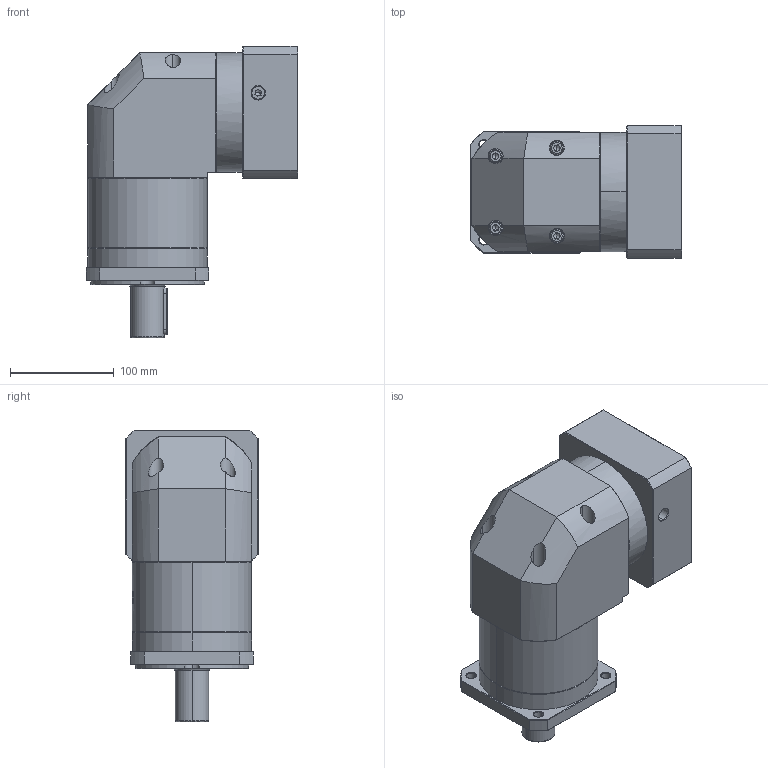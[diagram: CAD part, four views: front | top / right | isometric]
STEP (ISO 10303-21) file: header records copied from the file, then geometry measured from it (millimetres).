
FILE_DESCRIPTION (( 'STEP AP214' ), '1' );
FILE_NAME ('ZFR120A-D32-L2-P2-28-110-145-M8.step', '2023-08-27T08:10:20', ( '' ), ( '' ), 'SwSTEP 2.0', 'SolidWorks 2016', '' );
FILE_SCHEMA (( 'AUTOMOTIVE_DESIGN' ));
Length unit declared in the file: millimetre
Products named in the file (1): ZFR120A-D32-L2-P2-28-110-145-M8
Bounding box: 203.9 x 128 x 281.5 mm (x, y, z)
Volume: 3395553.6 mm3; surface area: 269697.6 mm2
Topology: 6 solids, 6 shells, 2267 faces, 5977 edges, 3812 vertices
Faces by surface type: plane 1062, cylinder 434, bspline 425, cone 338, torus 8
Entity records: 124442 total; most frequent: CARTESIAN_POINT 49036, ORIENTED_EDGE 11894, DIRECTION 8613, EDGE_CURVE 5947, VERTEX_POINT 3812, LINE 3163, VECTOR 3163, AXIS2_PLACEMENT_3D 2725
